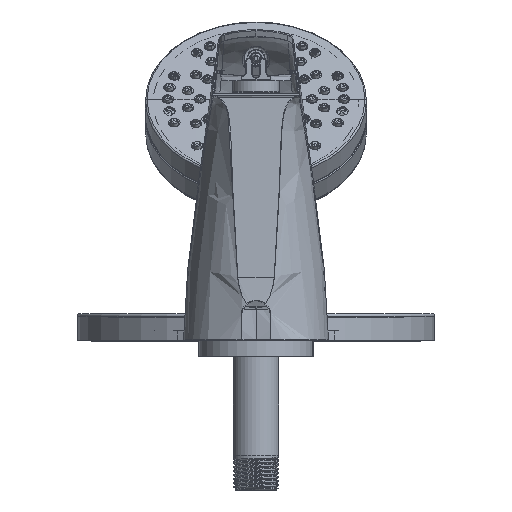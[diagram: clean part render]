
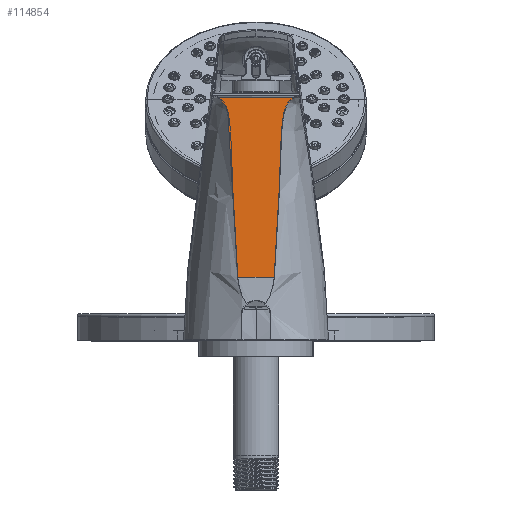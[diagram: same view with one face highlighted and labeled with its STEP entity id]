
A CAD part, front view. The second image highlights one B-rep face of the part: STEP entity #114854.
In plain terms, the highlighted planar face has unit normal (0, -0.999, 0.044).
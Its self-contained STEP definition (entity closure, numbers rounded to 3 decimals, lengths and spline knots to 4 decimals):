
#4873 = CARTESIAN_POINT ( 'NONE',  ( 1.5249, -9.3729, 8.3235 ) ) ;
#5355 = LINE ( 'NONE', #15377, #103539 ) ;
#6989 = CARTESIAN_POINT ( 'NONE',  ( 1.3765, -9.3407, 9.0624 ) ) ;
#7637 = CARTESIAN_POINT ( 'NONE',  ( 2.4705, -9.3494, 8.8618 ) ) ;
#7684 = CARTESIAN_POINT ( 'NONE',  ( 1.5357, -9.3848, 8.0521 ) ) ;
#8346 = CARTESIAN_POINT ( 'NONE',  ( 2.4242, -9.3641, 8.5253 ) ) ;
#9761 = CARTESIAN_POINT ( 'NONE',  ( 2.3191, -9.4648, 6.22 ) ) ;
#10600 = VERTEX_POINT ( 'NONE', #139776 ) ;
#12227 = ORIENTED_EDGE ( 'NONE', *, *, #58562, .F. ) ;
#13400 = CARTESIAN_POINT ( 'NONE',  ( 0.4412, -9.4766, 5.9495 ) ) ;
#13995 = CARTESIAN_POINT ( 'NONE',  ( 2.2941, -9.4766, 5.9495 ) ) ;
#15377 = CARTESIAN_POINT ( 'NONE',  ( 0.4412, -9.3374, 9.1368 ) ) ;
#17722 = CARTESIAN_POINT ( 'NONE',  ( 1.4143, -9.3432, 9.0053 ) ) ;
#19081 = CARTESIAN_POINT ( 'NONE',  ( 2.4335, -9.3597, 8.6267 ) ) ;
#19798 = CARTESIAN_POINT ( 'NONE',  ( 2.3676, -9.4293, 7.033 ) ) ;
#20503 = CARTESIAN_POINT ( 'NONE',  ( 2.4198, -9.3671, 8.4575 ) ) ;
#23174 = EDGE_LOOP ( 'NONE', ( #38847, #86330, #92363, #12227 ) ) ;
#23311 = CARTESIAN_POINT ( 'NONE',  ( 2.3078, -9.4707, 6.0847 ) ) ;
#27040 = CARTESIAN_POINT ( 'NONE',  ( 1.2986, -9.3378, 9.1288 ) ) ;
#27740 = CARTESIAN_POINT ( 'NONE',  ( 1.5908, -9.447, 6.6268 ) ) ;
#28438 = CARTESIAN_POINT ( 'NONE',  ( 1.6183, -9.4648, 6.2202 ) ) ;
#29089 = CARTESIAN_POINT ( 'NONE',  ( 2.6243, -9.3382, 9.1197 ) ) ;
#29786 = CARTESIAN_POINT ( 'NONE',  ( 2.4371, -9.3582, 8.6605 ) ) ;
#32468 = CARTESIAN_POINT ( 'NONE',  ( 2.6541, -9.3374, 9.1368 ) ) ;
#34042 = VECTOR ( 'NONE', #72423, 39.3701 ) ;
#36261 = FACE_OUTER_BOUND ( 'NONE', #23174, .T. ) ;
#38477 = CARTESIAN_POINT ( 'NONE',  ( 1.5697, -9.4293, 7.0338 ) ) ;
#38847 = ORIENTED_EDGE ( 'NONE', *, *, #98553, .F. ) ;
#40390 = B_SPLINE_CURVE_WITH_KNOTS ( 'NONE', 3,
 ( #49916, #125771, #28438, #105679, #27740, #38477, #125060, #59237, #127159, #7684, #59945, #83503, #4873, #72785, #48496, #71389, #104981, #137886, #103581, #102878, #92857, #81391, #135787, #17722, #126463, #137198, #6989, #92147, #40568, #104283, #27040, #70685 ),
 .UNSPECIFIED., .F., .F.,
 ( 4, 2, 2, 2, 2, 2, 2, 2, 2, 2, 2, 2, 2, 2, 2, 4 ),
 ( 0., 0.0104, 0.0207, 0.0414, 0.0518, 0.057, 0.0622, 0.0673, 0.0699, 0.0725, 0.0751, 0.0777, 0.079, 0.0803, 0.0816, 0.0829 ),
 .UNSPECIFIED. ) ;
#40568 = CARTESIAN_POINT ( 'NONE',  ( 1.3407, -9.3391, 9.0988 ) ) ;
#41229 = CARTESIAN_POINT ( 'NONE',  ( 2.4016, -9.3849, 8.0507 ) ) ;
#41943 = CARTESIAN_POINT ( 'NONE',  ( 2.4457, -9.3553, 8.728 ) ) ;
#44218 = VERTEX_POINT ( 'NONE', #53242 ) ;
#48496 = CARTESIAN_POINT ( 'NONE',  ( 1.513, -9.3641, 8.5269 ) ) ;
#49607 = VERTEX_POINT ( 'NONE', #32468 ) ;
#49916 = CARTESIAN_POINT ( 'NONE',  ( 1.6432, -9.4766, 5.9495 ) ) ;
#51965 = CARTESIAN_POINT ( 'NONE',  ( 2.4093, -9.376, 8.2542 ) ) ;
#53242 = CARTESIAN_POINT ( 'NONE',  ( 2.2941, -9.4766, 5.9495 ) ) ;
#58562 = EDGE_CURVE ( 'NONE', #10600, #49607, #5355, .T. ) ;
#59237 = CARTESIAN_POINT ( 'NONE',  ( 1.5466, -9.3996, 7.7126 ) ) ;
#59945 = CARTESIAN_POINT ( 'NONE',  ( 1.5333, -9.3818, 8.1199 ) ) ;
#62008 = CARTESIAN_POINT ( 'NONE',  ( 2.4892, -9.3466, 8.9269 ) ) ;
#62712 = CARTESIAN_POINT ( 'NONE',  ( 2.4123, -9.373, 8.322 ) ) ;
#63347 = EDGE_CURVE ( 'NONE', #49607, #44218, #121410, .T. ) ;
#64127 = CARTESIAN_POINT ( 'NONE',  ( 2.4039, -9.3819, 8.1186 ) ) ;
#64507 = VERTEX_POINT ( 'NONE', #86495 ) ;
#70685 = CARTESIAN_POINT ( 'NONE',  ( 1.2833, -9.3374, 9.1368 ) ) ;
#71389 = CARTESIAN_POINT ( 'NONE',  ( 1.5037, -9.3596, 8.6283 ) ) ;
#72423 = DIRECTION ( 'NONE',  ( 1., 0., 0. ) ) ;
#72745 = CARTESIAN_POINT ( 'NONE',  ( 2.5843, -9.3396, 9.0877 ) ) ;
#72785 = CARTESIAN_POINT ( 'NONE',  ( 1.5175, -9.367, 8.4591 ) ) ;
#81391 = CARTESIAN_POINT ( 'NONE',  ( 1.4478, -9.3465, 8.9281 ) ) ;
#83503 = CARTESIAN_POINT ( 'NONE',  ( 1.5279, -9.3759, 8.2557 ) ) ;
#84160 = CARTESIAN_POINT ( 'NONE',  ( 2.4507, -9.3538, 8.7618 ) ) ;
#84864 = CARTESIAN_POINT ( 'NONE',  ( 2.3948, -9.3937, 7.8472 ) ) ;
#85576 = CARTESIAN_POINT ( 'NONE',  ( 2.3907, -9.3997, 7.7114 ) ) ;
#86330 = ORIENTED_EDGE ( 'NONE', *, *, #105182, .T. ) ;
#86495 = CARTESIAN_POINT ( 'NONE',  ( 1.6432, -9.4766, 5.9495 ) ) ;
#86979 = CARTESIAN_POINT ( 'NONE',  ( 2.6541, -9.3374, 9.1368 ) ) ;
#87812 = PLANE ( 'NONE',  #138773 ) ;
#88515 = DIRECTION ( 'NONE',  ( 0., 0.999, -0.044 ) ) ;
#92147 = CARTESIAN_POINT ( 'NONE',  ( 1.3534, -9.3396, 9.0874 ) ) ;
#92363 = ORIENTED_EDGE ( 'NONE', *, *, #63347, .F. ) ;
#92857 = CARTESIAN_POINT ( 'NONE',  ( 1.4665, -9.3494, 8.8632 ) ) ;
#94919 = CARTESIAN_POINT ( 'NONE',  ( 2.5005, -9.3452, 8.9589 ) ) ;
#96323 = CARTESIAN_POINT ( 'NONE',  ( 2.3465, -9.447, 6.6263 ) ) ;
#98553 = EDGE_CURVE ( 'NONE', #64507, #10600, #40390, .T. ) ;
#102637 = DIRECTION ( 'NONE',  ( 1., 0., 0. ) ) ;
#102878 = CARTESIAN_POINT ( 'NONE',  ( 1.474, -9.3508, 8.8299 ) ) ;
#103539 = VECTOR ( 'NONE', #102637, 39.3701 ) ;
#103581 = CARTESIAN_POINT ( 'NONE',  ( 1.4864, -9.3538, 8.7631 ) ) ;
#104283 = CARTESIAN_POINT ( 'NONE',  ( 1.3133, -9.3382, 9.1196 ) ) ;
#104981 = CARTESIAN_POINT ( 'NONE',  ( 1.5001, -9.3582, 8.6622 ) ) ;
#105182 = EDGE_CURVE ( 'NONE', #64507, #44218, #105307, .T. ) ;
#105307 = LINE ( 'NONE', #126798, #34042 ) ;
#105679 = CARTESIAN_POINT ( 'NONE',  ( 1.5989, -9.4529, 6.4912 ) ) ;
#107750 = CARTESIAN_POINT ( 'NONE',  ( 2.3384, -9.453, 6.4908 ) ) ;
#114854 = ADVANCED_FACE ( 'NONE', ( #36261 ), #87812, .F. ) ;
#116368 = CARTESIAN_POINT ( 'NONE',  ( 2.5306, -9.3425, 9.0209 ) ) ;
#117771 = CARTESIAN_POINT ( 'NONE',  ( 2.3775, -9.4174, 7.3043 ) ) ;
#121410 = B_SPLINE_CURVE_WITH_KNOTS ( 'NONE', 3,
 ( #86979, #129225, #29089, #139957, #72745, #139244, #116368, #94919, #62008, #7637, #127807, #84160, #41943, #29786, #19081, #8346, #20503, #62712, #51965, #64127, #41229, #84864, #85576, #117771, #19798, #96323, #107750, #9761, #23311, #13995 ),
 .UNSPECIFIED., .F., .F.,
 ( 4, 2, 2, 2, 2, 2, 2, 2, 2, 2, 2, 2, 2, 2, 4 ),
 ( 0., 0.0013, 0.0026, 0.0052, 0.0078, 0.0104, 0.013, 0.0156, 0.0208, 0.026, 0.0312, 0.0416, 0.0624, 0.0727, 0.0831 ),
 .UNSPECIFIED. ) ;
#125060 = CARTESIAN_POINT ( 'NONE',  ( 1.5598, -9.4174, 7.3053 ) ) ;
#125771 = CARTESIAN_POINT ( 'NONE',  ( 1.6295, -9.4707, 6.0848 ) ) ;
#126463 = CARTESIAN_POINT ( 'NONE',  ( 1.406, -9.3425, 9.0201 ) ) ;
#126798 = CARTESIAN_POINT ( 'NONE',  ( 0.4412, -9.4766, 5.9495 ) ) ;
#127159 = CARTESIAN_POINT ( 'NONE',  ( 1.5425, -9.3937, 7.8484 ) ) ;
#127807 = CARTESIAN_POINT ( 'NONE',  ( 2.4631, -9.3509, 8.8287 ) ) ;
#129225 = CARTESIAN_POINT ( 'NONE',  ( 2.6388, -9.3378, 9.1288 ) ) ;
#132158 = DIRECTION ( 'NONE',  ( 0., 0.044, 0.999 ) ) ;
#135787 = CARTESIAN_POINT ( 'NONE',  ( 1.4364, -9.3452, 8.9598 ) ) ;
#137198 = CARTESIAN_POINT ( 'NONE',  ( 1.387, -9.3413, 9.0488 ) ) ;
#137886 = CARTESIAN_POINT ( 'NONE',  ( 1.4914, -9.3552, 8.7295 ) ) ;
#138773 = AXIS2_PLACEMENT_3D ( 'NONE', #13400, #88515, #132158 ) ;
#139244 = CARTESIAN_POINT ( 'NONE',  ( 2.5491, -9.3412, 9.0497 ) ) ;
#139776 = CARTESIAN_POINT ( 'NONE',  ( 1.2833, -9.3374, 9.1368 ) ) ;
#139957 = CARTESIAN_POINT ( 'NONE',  ( 2.597, -9.3391, 9.0992 ) ) ;
